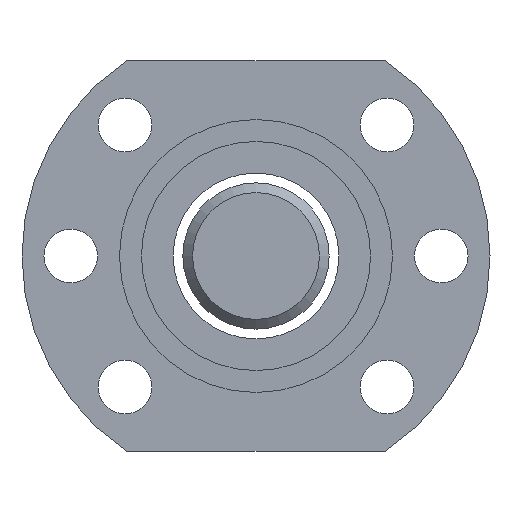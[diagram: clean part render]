
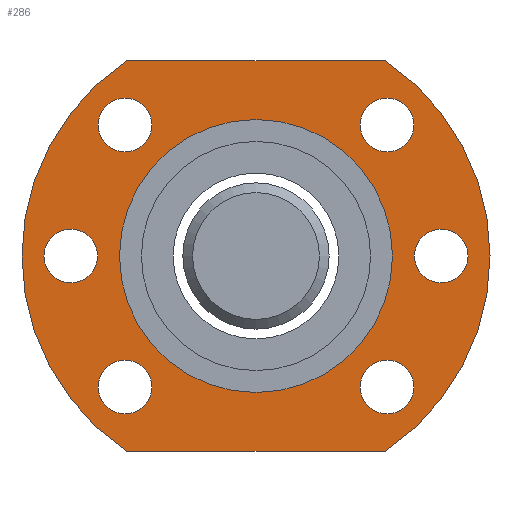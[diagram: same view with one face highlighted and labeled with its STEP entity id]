
A CAD part, left-side view. The second image highlights one B-rep face of the part: STEP entity #286.
In plain terms, the highlighted planar face has unit normal (-1, 0, 0).
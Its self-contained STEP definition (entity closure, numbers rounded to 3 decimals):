
#97=LINE('',#1193,#105);
#98=LINE('',#1197,#106);
#105=VECTOR('',#1012,1.);
#106=VECTOR('',#1015,1.);
#227=FACE_BOUND('',#407,.T.);
#228=FACE_BOUND('',#408,.T.);
#229=FACE_BOUND('',#409,.T.);
#230=FACE_BOUND('',#410,.T.);
#231=FACE_BOUND('',#411,.T.);
#232=FACE_BOUND('',#412,.T.);
#233=FACE_BOUND('',#413,.T.);
#234=FACE_BOUND('',#414,.T.);
#286=ADVANCED_FACE('',(#227,#228,#229,#230,#231,#232,#233,#234),#316,.T.);
#316=PLANE('',#823);
#407=EDGE_LOOP('',(#516));
#408=EDGE_LOOP('',(#517));
#409=EDGE_LOOP('',(#518,#519,#520,#521));
#410=EDGE_LOOP('',(#522));
#411=EDGE_LOOP('',(#523));
#412=EDGE_LOOP('',(#524));
#413=EDGE_LOOP('',(#525));
#414=EDGE_LOOP('',(#526));
#516=ORIENTED_EDGE('',*,*,#661,.T.);
#517=ORIENTED_EDGE('',*,*,#650,.F.);
#518=ORIENTED_EDGE('',*,*,#662,.T.);
#519=ORIENTED_EDGE('',*,*,#663,.T.);
#520=ORIENTED_EDGE('',*,*,#664,.T.);
#521=ORIENTED_EDGE('',*,*,#665,.T.);
#522=ORIENTED_EDGE('',*,*,#666,.F.);
#523=ORIENTED_EDGE('',*,*,#667,.F.);
#524=ORIENTED_EDGE('',*,*,#668,.F.);
#525=ORIENTED_EDGE('',*,*,#669,.T.);
#526=ORIENTED_EDGE('',*,*,#670,.T.);
#592=VERTEX_POINT('',#1165);
#603=VERTEX_POINT('',#1189);
#604=VERTEX_POINT('',#1191);
#605=VERTEX_POINT('',#1192);
#606=VERTEX_POINT('',#1194);
#607=VERTEX_POINT('',#1196);
#608=VERTEX_POINT('',#1199);
#609=VERTEX_POINT('',#1201);
#610=VERTEX_POINT('',#1203);
#611=VERTEX_POINT('',#1205);
#612=VERTEX_POINT('',#1207);
#650=EDGE_CURVE('',#592,#592,#712,.T.);
#661=EDGE_CURVE('',#603,#603,#721,.T.);
#662=EDGE_CURVE('',#604,#605,#722,.T.);
#663=EDGE_CURVE('',#605,#606,#97,.T.);
#664=EDGE_CURVE('',#606,#607,#723,.T.);
#665=EDGE_CURVE('',#607,#604,#98,.T.);
#666=EDGE_CURVE('',#608,#608,#724,.T.);
#667=EDGE_CURVE('',#609,#609,#725,.T.);
#668=EDGE_CURVE('',#610,#610,#726,.T.);
#669=EDGE_CURVE('',#611,#611,#727,.T.);
#670=EDGE_CURVE('',#612,#612,#728,.T.);
#712=CIRCLE('',#804,14.);
#721=CIRCLE('',#815,2.75);
#722=CIRCLE('',#816,24.);
#723=CIRCLE('',#817,24.);
#724=CIRCLE('',#818,2.75);
#725=CIRCLE('',#819,2.75);
#726=CIRCLE('',#820,2.75);
#727=CIRCLE('',#821,2.75);
#728=CIRCLE('',#822,2.75);
#804=AXIS2_PLACEMENT_3D('',#1164,#984,#985);
#815=AXIS2_PLACEMENT_3D('',#1188,#1008,#1009);
#816=AXIS2_PLACEMENT_3D('',#1190,#1010,#1011);
#817=AXIS2_PLACEMENT_3D('',#1195,#1013,#1014);
#818=AXIS2_PLACEMENT_3D('',#1198,#1016,#1017);
#819=AXIS2_PLACEMENT_3D('',#1200,#1018,#1019);
#820=AXIS2_PLACEMENT_3D('',#1202,#1020,#1021);
#821=AXIS2_PLACEMENT_3D('',#1204,#1022,#1023);
#822=AXIS2_PLACEMENT_3D('',#1206,#1024,#1025);
#823=AXIS2_PLACEMENT_3D('',#1208,#1026,#1027);
#984=DIRECTION('',(-1.,0.,0.));
#985=DIRECTION('',(0.,0.,-1.));
#1008=DIRECTION('',(1.,0.,0.));
#1009=DIRECTION('',(0.,0.,1.));
#1010=DIRECTION('',(-1.,0.,0.));
#1011=DIRECTION('',(0.,0.,-1.));
#1012=DIRECTION('',(0.,-1.,0.));
#1013=DIRECTION('',(-1.,0.,0.));
#1014=DIRECTION('',(0.,0.,-1.));
#1015=DIRECTION('',(0.,1.,0.));
#1016=DIRECTION('',(-1.,0.,0.));
#1017=DIRECTION('',(0.,0.,1.));
#1018=DIRECTION('',(-1.,0.,0.));
#1019=DIRECTION('',(0.,0.,1.));
#1020=DIRECTION('',(-1.,0.,0.));
#1021=DIRECTION('',(0.,0.,1.));
#1022=DIRECTION('',(1.,0.,0.));
#1023=DIRECTION('',(0.,0.,1.));
#1024=DIRECTION('',(1.,0.,0.));
#1025=DIRECTION('',(0.,0.,1.));
#1026=DIRECTION('',(-1.,0.,0.));
#1027=DIRECTION('',(0.,0.,1.));
#1164=CARTESIAN_POINT('',(-95.116,-66.858,-29.289));
#1165=CARTESIAN_POINT('',(-95.116,-66.858,-43.289));
#1188=CARTESIAN_POINT('',(-95.116,-85.858,-29.289));
#1189=CARTESIAN_POINT('',(-95.116,-85.858,-26.539));
#1190=CARTESIAN_POINT('',(-95.116,-66.858,-29.289));
#1191=CARTESIAN_POINT('',(-95.116,-53.591,-9.289));
#1192=CARTESIAN_POINT('',(-95.116,-53.591,-49.289));
#1193=CARTESIAN_POINT('',(-95.116,-53.591,-49.289));
#1194=CARTESIAN_POINT('',(-95.116,-80.124,-49.289));
#1195=CARTESIAN_POINT('',(-95.116,-66.858,-29.289));
#1196=CARTESIAN_POINT('',(-95.116,-80.124,-9.289));
#1197=CARTESIAN_POINT('',(-95.116,-80.124,-9.289));
#1198=CARTESIAN_POINT('',(-95.116,-47.858,-29.289));
#1199=CARTESIAN_POINT('',(-95.116,-47.858,-26.539));
#1200=CARTESIAN_POINT('',(-95.116,-53.423,-15.854));
#1201=CARTESIAN_POINT('',(-95.116,-53.423,-13.104));
#1202=CARTESIAN_POINT('',(-95.116,-53.423,-42.724));
#1203=CARTESIAN_POINT('',(-95.116,-53.423,-39.974));
#1204=CARTESIAN_POINT('',(-95.116,-80.293,-42.724));
#1205=CARTESIAN_POINT('',(-95.116,-80.293,-39.974));
#1206=CARTESIAN_POINT('',(-95.116,-80.293,-15.854));
#1207=CARTESIAN_POINT('',(-95.116,-80.293,-13.104));
#1208=CARTESIAN_POINT('',(-95.116,-66.858,-29.289));
